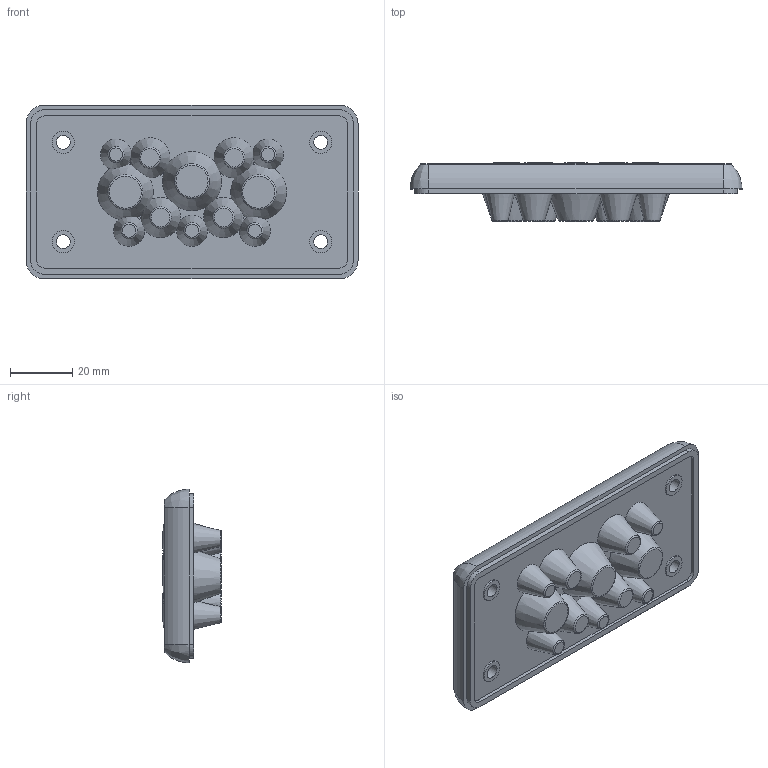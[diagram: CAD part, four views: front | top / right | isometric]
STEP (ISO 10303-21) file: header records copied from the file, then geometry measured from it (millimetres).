
FILE_DESCRIPTION( ( 'STEP AP214' ), '1' );
FILE_NAME( 'p:/temp/worker_17/temp/exporttempdir_6772_97_FUctZ/format_0/107294 MH 10 F12-1.stp', '2021-05-11T07:37:56', ( 'License CC BY-ND 4.0' ), ( 'CADENAS' ), ' ', 'PARTsolutions', ' ' );
FILE_SCHEMA( ( 'AUTOMOTIVE_DESIGN { 1 0 10303 214 1 1 1 1 }' ) );
Length unit declared in the file: millimetre
Products named in the file (1): _107294 MH 10 F12-1
Bounding box: 107 x 19 x 56 mm (x, y, z)
Volume: 58350.1 mm3; surface area: 17576.7 mm2
Topology: 1 solids, 1 shells, 127 faces, 298 edges, 196 vertices
Faces by surface type: plane 55, cone 28, cylinder 24, torus 16, bspline 4
Full cylindrical faces by diameter (mm): 4.5 x4, 7.2 x4
Entity records: 4550 total; most frequent: CARTESIAN_POINT 884, DIRECTION 596, ORIENTED_EDGE 436, AXIS2_PLACEMENT_3D 272, EDGE_CURVE 218, EDGE_LOOP 210, VERTEX_POINT 168, FACE_OUTER_BOUND 151
